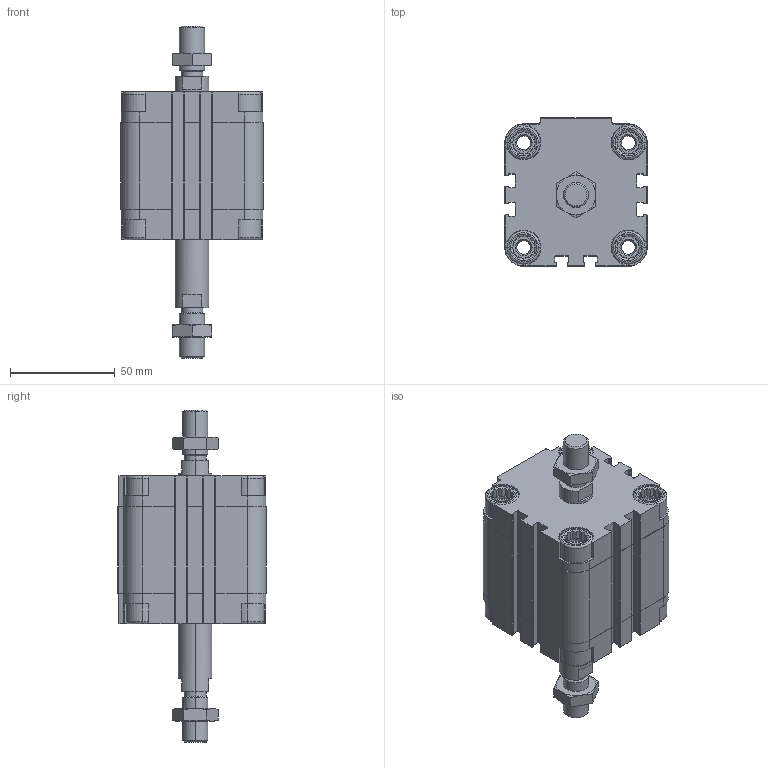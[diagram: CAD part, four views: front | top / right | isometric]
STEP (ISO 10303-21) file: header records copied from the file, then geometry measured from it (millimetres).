
FILE_DESCRIPTION (( 'STEP AP203' ), '1' );
FILE_NAME ('CDVU50-25M-P.STEP', '2020-07-21T15:18:52', ( '' ), ( '' ), 'SwSTEP 2.0', 'SolidWorks 2019', '' );
FILE_SCHEMA (( 'CONFIG_CONTROL_DESIGN' ));
Length unit declared in the file: millimetre
Products named in the file (1): CDVU50-25M-P
Bounding box: 68 x 71 x 158.5 mm (x, y, z)
Volume: 263343.2 mm3; surface area: 69145.4 mm2
Topology: 4 solids, 4 shells, 758 faces, 2004 edges, 1290 vertices
Faces by surface type: plane 438, cylinder 240, cone 64, torus 16
Entity records: 24259 total; most frequent: CARTESIAN_POINT 5321, ORIENTED_EDGE 4000, DIRECTION 3878, EDGE_CURVE 2000, AXIS2_PLACEMENT_3D 1335, VERTEX_POINT 1290, VECTOR 1208, LINE 1208
